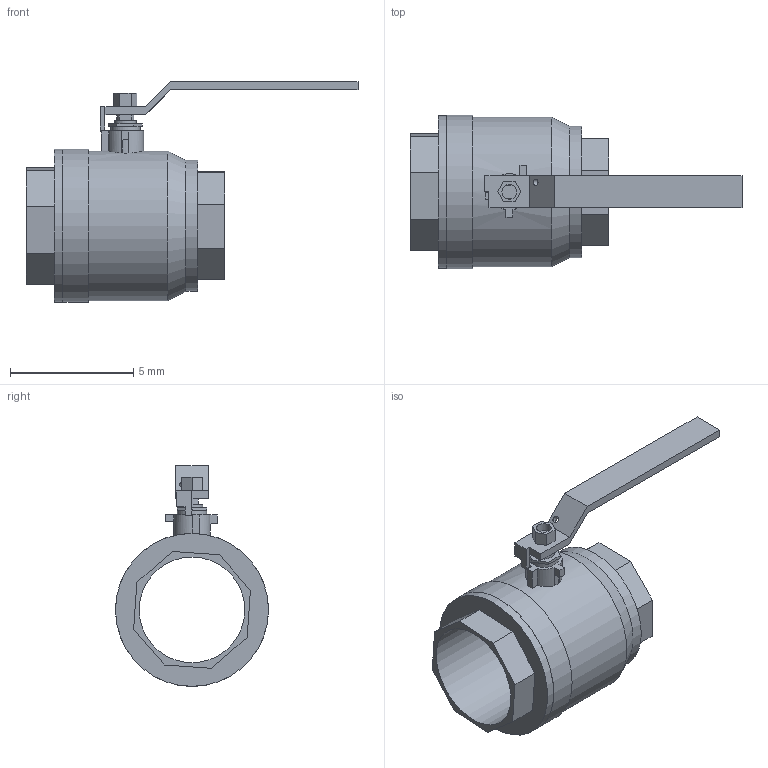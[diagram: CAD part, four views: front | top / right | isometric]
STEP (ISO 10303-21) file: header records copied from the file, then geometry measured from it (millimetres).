
FILE_DESCRIPTION(('Open CASCADE Model'),'2;1');
FILE_NAME('Open CASCADE Shape Model','2021-08-18T16:23:25',('Author'),( 'Open CASCADE'),'Open CASCADE STEP processor 7.3','Open CASCADE 7.3' ,'Unknown');
FILE_SCHEMA(('AUTOMOTIVE_DESIGN { 1 0 10303 214 1 1 1 1 }'));
Length unit declared in the file: millimetre
Products named in the file (3): Open CASCADE STEP translator 7.3 1; Open CASCADE STEP translator 7.3 1.1; Open CASCADE STEP translator 7.3 1.2
Assembly tree (2 placements, depth 2):
  Open CASCADE STEP translator 7.3 1
    Open CASCADE STEP translator 7.3 1.1
    Open CASCADE STEP translator 7.3 1.2
Bounding box: 13.46 x 6.21 x 8.96 mm (x, y, z)
Volume: 87 mm3; surface area: 342.4 mm2
Topology: 2 solids, 2 shells, 102 faces, 254 edges, 167 vertices
Faces by surface type: plane 85, cylinder 15, cone 2
Full cylindrical faces by diameter (mm): 0.265 x1, 0.6 x1, 0.865 x1, 1.19 x1, 4.28 x2, 5.32 x1, 6.07 x1, 6.2 x1, 6.21 x1
Entity records: 6728 total; most frequent: CARTESIAN_POINT 1499, DIRECTION 978, LINE 645, VECTOR 645, ORIENTED_EDGE 508, PCURVE 508, DEFINITIONAL_REPRESENTATION 508, EDGE_CURVE 254
